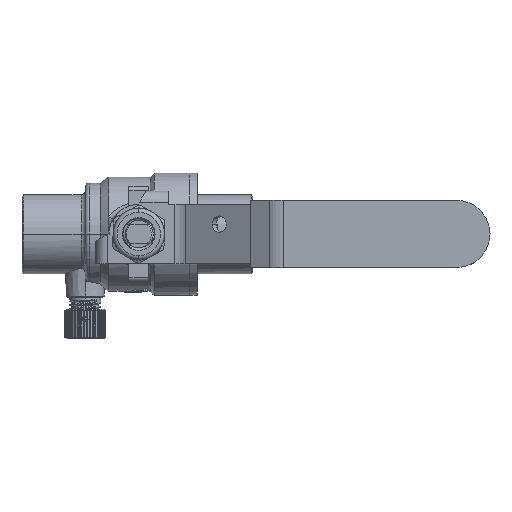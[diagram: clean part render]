
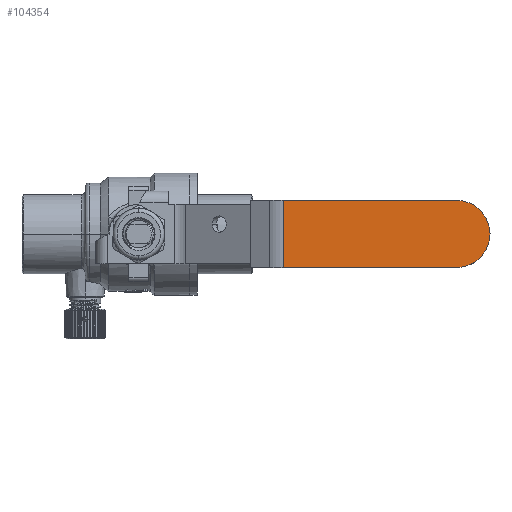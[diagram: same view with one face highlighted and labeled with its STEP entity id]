
A CAD part, top view. The second image highlights one B-rep face of the part: STEP entity #104354.
In plain terms, the highlighted planar face has unit normal (0, 0, 1).
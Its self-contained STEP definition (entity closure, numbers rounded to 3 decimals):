
#103838 = PLANE('',#103839);
#103839 = AXIS2_PLACEMENT_3D('',#103840,#103841,#103842);
#103840 = CARTESIAN_POINT('',(36.668,26.255,
    51.313));
#103841 = DIRECTION('',(0.,-1.,0.));
#103842 = DIRECTION('',(0.,0.,-1.));
#103867 = CYLINDRICAL_SURFACE('',#103868,8.5);
#103868 = AXIS2_PLACEMENT_3D('',#103869,#103870,#103871);
#103869 = CARTESIAN_POINT('',(80.604,17.755,
    54.713));
#103870 = DIRECTION('',(0.,0.,-1.));
#103871 = DIRECTION('',(-1.,-0.,0.));
#103896 = CYLINDRICAL_SURFACE('',#103897,8.5);
#103897 = AXIS2_PLACEMENT_3D('',#103898,#103899,#103900);
#103898 = CARTESIAN_POINT('',(80.604,17.755,
    51.313));
#103899 = DIRECTION('',(0.,0.,1.));
#103900 = DIRECTION('',(1.,0.,-0.));
#103924 = PLANE('',#103925);
#103925 = AXIS2_PLACEMENT_3D('',#103926,#103927,#103928);
#103926 = CARTESIAN_POINT('',(36.668,9.255,
    51.313));
#103927 = DIRECTION('',(0.,-1.,0.));
#103928 = DIRECTION('',(0.,0.,-1.));
#104244 = CYLINDRICAL_SURFACE('',#104245,6.6);
#104245 = AXIS2_PLACEMENT_3D('',#104246,#104247,#104248);
#104246 = CARTESIAN_POINT('',(36.668,26.255,
    51.313));
#104247 = DIRECTION('',(0.,-1.,0.));
#104248 = DIRECTION('',(0.,0.,-1.));
#104282 = VERTEX_POINT('',#104283);
#104283 = CARTESIAN_POINT('',(36.668,9.255,
    57.913));
#104305 = EDGE_CURVE('',#104306,#104282,#104308,.T.);
#104306 = VERTEX_POINT('',#104307);
#104307 = CARTESIAN_POINT('',(36.668,26.255,
    57.913));
#104308 = SURFACE_CURVE('',#104309,(#104313,#104320),.PCURVE_S1.);
#104309 = LINE('',#104310,#104311);
#104310 = CARTESIAN_POINT('',(36.668,26.255,
    57.913));
#104311 = VECTOR('',#104312,1.);
#104312 = DIRECTION('',(0.,-1.,0.));
#104313 = PCURVE('',#104244,#104314);
#104314 = DEFINITIONAL_REPRESENTATION('',(#104315),#104319);
#104315 = LINE('',#104316,#104317);
#104316 = CARTESIAN_POINT('',(3.142,0.));
#104317 = VECTOR('',#104318,1.);
#104318 = DIRECTION('',(0.,1.));
#104319 = ( GEOMETRIC_REPRESENTATION_CONTEXT(2) 
PARAMETRIC_REPRESENTATION_CONTEXT() REPRESENTATION_CONTEXT('2D SPACE',''
  ) );
#104320 = PCURVE('',#104321,#104326);
#104321 = PLANE('',#104322);
#104322 = AXIS2_PLACEMENT_3D('',#104323,#104324,#104325);
#104323 = CARTESIAN_POINT('',(89.104,26.255,
    57.913));
#104324 = DIRECTION('',(0.,0.,1.));
#104325 = DIRECTION('',(1.,0.,-0.));
#104326 = DEFINITIONAL_REPRESENTATION('',(#104327),#104331);
#104327 = LINE('',#104328,#104329);
#104328 = CARTESIAN_POINT('',(-52.436,0.));
#104329 = VECTOR('',#104330,1.);
#104330 = DIRECTION('',(0.,-1.));
#104331 = ( GEOMETRIC_REPRESENTATION_CONTEXT(2) 
PARAMETRIC_REPRESENTATION_CONTEXT() REPRESENTATION_CONTEXT('2D SPACE',''
  ) );
#104354 = ADVANCED_FACE('',(#104355),#104321,.T.);
#104355 = FACE_BOUND('',#104356,.T.);
#104356 = EDGE_LOOP('',(#104357,#104383,#104407,#104428,#104429));
#104357 = ORIENTED_EDGE('',*,*,#104358,.T.);
#104358 = EDGE_CURVE('',#104359,#104361,#104363,.T.);
#104359 = VERTEX_POINT('',#104360);
#104360 = CARTESIAN_POINT('',(80.604,9.255,
    57.913));
#104361 = VERTEX_POINT('',#104362);
#104362 = CARTESIAN_POINT('',(89.104,17.755,
    57.913));
#104363 = SURFACE_CURVE('',#104364,(#104369,#104376),.PCURVE_S1.);
#104364 = CIRCLE('',#104365,8.5);
#104365 = AXIS2_PLACEMENT_3D('',#104366,#104367,#104368);
#104366 = CARTESIAN_POINT('',(80.604,17.755,
    57.913));
#104367 = DIRECTION('',(0.,0.,1.));
#104368 = DIRECTION('',(1.,0.,-0.));
#104369 = PCURVE('',#104321,#104370);
#104370 = DEFINITIONAL_REPRESENTATION('',(#104371),#104375);
#104371 = CIRCLE('',#104372,8.5);
#104372 = AXIS2_PLACEMENT_2D('',#104373,#104374);
#104373 = CARTESIAN_POINT('',(-8.5,-8.5));
#104374 = DIRECTION('',(1.,0.));
#104375 = ( GEOMETRIC_REPRESENTATION_CONTEXT(2) 
PARAMETRIC_REPRESENTATION_CONTEXT() REPRESENTATION_CONTEXT('2D SPACE',''
  ) );
#104376 = PCURVE('',#103896,#104377);
#104377 = DEFINITIONAL_REPRESENTATION('',(#104378),#104382);
#104378 = LINE('',#104379,#104380);
#104379 = CARTESIAN_POINT('',(0.,6.6));
#104380 = VECTOR('',#104381,1.);
#104381 = DIRECTION('',(1.,0.));
#104382 = ( GEOMETRIC_REPRESENTATION_CONTEXT(2) 
PARAMETRIC_REPRESENTATION_CONTEXT() REPRESENTATION_CONTEXT('2D SPACE',''
  ) );
#104383 = ORIENTED_EDGE('',*,*,#104384,.T.);
#104384 = EDGE_CURVE('',#104361,#104385,#104387,.T.);
#104385 = VERTEX_POINT('',#104386);
#104386 = CARTESIAN_POINT('',(80.604,26.255,
    57.913));
#104387 = SURFACE_CURVE('',#104388,(#104393,#104400),.PCURVE_S1.);
#104388 = CIRCLE('',#104389,8.5);
#104389 = AXIS2_PLACEMENT_3D('',#104390,#104391,#104392);
#104390 = CARTESIAN_POINT('',(80.604,17.755,
    57.913));
#104391 = DIRECTION('',(0.,0.,1.));
#104392 = DIRECTION('',(1.,0.,-0.));
#104393 = PCURVE('',#104321,#104394);
#104394 = DEFINITIONAL_REPRESENTATION('',(#104395),#104399);
#104395 = CIRCLE('',#104396,8.5);
#104396 = AXIS2_PLACEMENT_2D('',#104397,#104398);
#104397 = CARTESIAN_POINT('',(-8.5,-8.5));
#104398 = DIRECTION('',(1.,0.));
#104399 = ( GEOMETRIC_REPRESENTATION_CONTEXT(2) 
PARAMETRIC_REPRESENTATION_CONTEXT() REPRESENTATION_CONTEXT('2D SPACE',''
  ) );
#104400 = PCURVE('',#103867,#104401);
#104401 = DEFINITIONAL_REPRESENTATION('',(#104402),#104406);
#104402 = LINE('',#104403,#104404);
#104403 = CARTESIAN_POINT('',(3.142,-3.2));
#104404 = VECTOR('',#104405,1.);
#104405 = DIRECTION('',(-1.,0.));
#104406 = ( GEOMETRIC_REPRESENTATION_CONTEXT(2) 
PARAMETRIC_REPRESENTATION_CONTEXT() REPRESENTATION_CONTEXT('2D SPACE',''
  ) );
#104407 = ORIENTED_EDGE('',*,*,#104408,.T.);
#104408 = EDGE_CURVE('',#104385,#104306,#104409,.T.);
#104409 = SURFACE_CURVE('',#104410,(#104414,#104421),.PCURVE_S1.);
#104410 = LINE('',#104411,#104412);
#104411 = CARTESIAN_POINT('',(89.104,26.255,
    57.913));
#104412 = VECTOR('',#104413,1.);
#104413 = DIRECTION('',(-1.,0.,0.));
#104414 = PCURVE('',#104321,#104415);
#104415 = DEFINITIONAL_REPRESENTATION('',(#104416),#104420);
#104416 = LINE('',#104417,#104418);
#104417 = CARTESIAN_POINT('',(0.,0.));
#104418 = VECTOR('',#104419,1.);
#104419 = DIRECTION('',(-1.,0.));
#104420 = ( GEOMETRIC_REPRESENTATION_CONTEXT(2) 
PARAMETRIC_REPRESENTATION_CONTEXT() REPRESENTATION_CONTEXT('2D SPACE',''
  ) );
#104421 = PCURVE('',#103838,#104422);
#104422 = DEFINITIONAL_REPRESENTATION('',(#104423),#104427);
#104423 = LINE('',#104424,#104425);
#104424 = CARTESIAN_POINT('',(-6.6,52.436));
#104425 = VECTOR('',#104426,1.);
#104426 = DIRECTION('',(-0.,-1.));
#104427 = ( GEOMETRIC_REPRESENTATION_CONTEXT(2) 
PARAMETRIC_REPRESENTATION_CONTEXT() REPRESENTATION_CONTEXT('2D SPACE',''
  ) );
#104428 = ORIENTED_EDGE('',*,*,#104305,.T.);
#104429 = ORIENTED_EDGE('',*,*,#104430,.F.);
#104430 = EDGE_CURVE('',#104359,#104282,#104431,.T.);
#104431 = SURFACE_CURVE('',#104432,(#104436,#104443),.PCURVE_S1.);
#104432 = LINE('',#104433,#104434);
#104433 = CARTESIAN_POINT('',(89.104,9.255,
    57.913));
#104434 = VECTOR('',#104435,1.);
#104435 = DIRECTION('',(-1.,0.,0.));
#104436 = PCURVE('',#104321,#104437);
#104437 = DEFINITIONAL_REPRESENTATION('',(#104438),#104442);
#104438 = LINE('',#104439,#104440);
#104439 = CARTESIAN_POINT('',(0.,-17.));
#104440 = VECTOR('',#104441,1.);
#104441 = DIRECTION('',(-1.,0.));
#104442 = ( GEOMETRIC_REPRESENTATION_CONTEXT(2) 
PARAMETRIC_REPRESENTATION_CONTEXT() REPRESENTATION_CONTEXT('2D SPACE',''
  ) );
#104443 = PCURVE('',#103924,#104444);
#104444 = DEFINITIONAL_REPRESENTATION('',(#104445),#104449);
#104445 = LINE('',#104446,#104447);
#104446 = CARTESIAN_POINT('',(-6.6,52.436));
#104447 = VECTOR('',#104448,1.);
#104448 = DIRECTION('',(-0.,-1.));
#104449 = ( GEOMETRIC_REPRESENTATION_CONTEXT(2) 
PARAMETRIC_REPRESENTATION_CONTEXT() REPRESENTATION_CONTEXT('2D SPACE',''
  ) );
